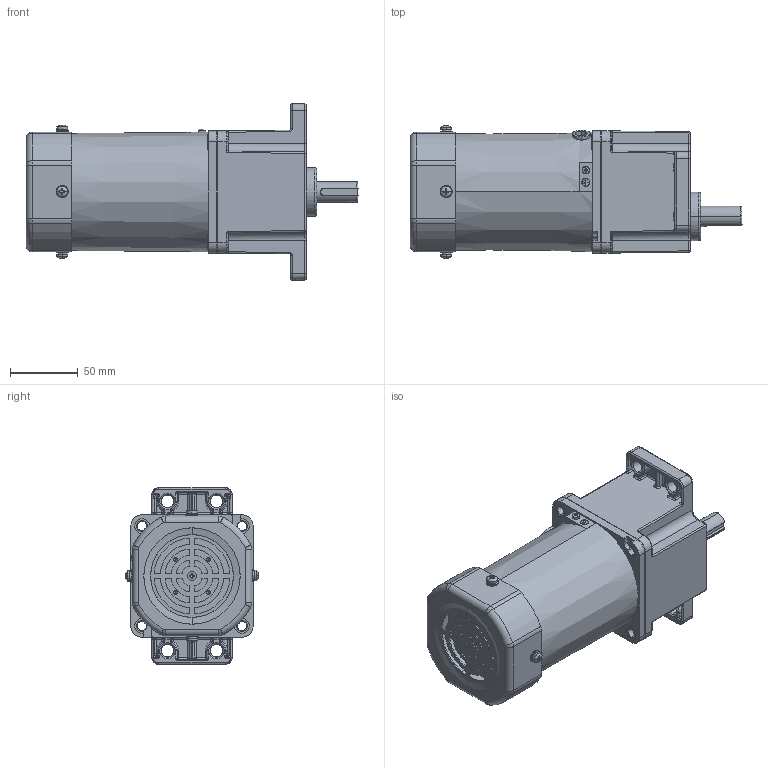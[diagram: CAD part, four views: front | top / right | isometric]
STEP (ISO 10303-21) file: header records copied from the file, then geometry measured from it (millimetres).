
FILE_DESCRIPTION (( 'STEP AP203' ), '1' );
FILE_NAME ('5IK120GU-CF(5GU3K-200K).STEP', '2023-08-09T02:34:12', ( 'Windows User' ), ( 'P R C' ), 'SwSTEP 2.0', 'SolidWorks 2019', '' );
FILE_SCHEMA (( 'CONFIG_CONTROL_DESIGN' ));
Length unit declared in the file: millimetre
Products named in the file (9): 5GU3K-200K^5IK120GU-CF(5GU3K-200K)(2)_5IK120GU-CF(5GU3K-200K); 5IK120GU-CF(5GU3K-200K); 5IK120GU-CF(5GU3K-200K)(2)^5IK120GU-CF(5GU3K-200K); 90JK^5IK90A-CF_5IK120GU-CF(5GU3K-200K)(2)_5IK120GU-CF(5GU3K-200K); 5IK90A-CF^5IK120GU-CF(5GU3K-200K)(2)_5IK120GU-CF(5GU3K-200K); M3^5IK90A-CF_5IK120GU-CF(5GU3K-200K)(2)_5IK120GU-CF(5GU3K-200K); 90FZ^5IK90A-CF_5IK120GU-CF(5GU3K-200K)(2)_5IK120GU-CF(5GU3K-200K); ^_5GU3K-200K_5IK120GU-CF(5GU3K-200K)(2)_5IK120GU-CF(5GU3K-200K); ^5GU3K-200K_5IK120GU-CF(5GU3K-200K)(2)_5IK120GU-CF(5GU3K-200K)
Assembly tree (8 placements, depth 5):
  5IK120GU-CF(5GU3K-200K)
    5IK120GU-CF(5GU3K-200K)(2)^5IK120GU-CF(5GU3K-200K)
      5IK90A-CF^5IK120GU-CF(5GU3K-200K)(2)_5IK120GU-CF(5GU3K-200K)
        90JK^5IK90A-CF_5IK120GU-CF(5GU3K-200K)(2)_5IK120GU-CF(5GU3K-200K)
        M3^5IK90A-CF_5IK120GU-CF(5GU3K-200K)(2)_5IK120GU-CF(5GU3K-200K)
        90FZ^5IK90A-CF_5IK120GU-CF(5GU3K-200K)(2)_5IK120GU-CF(5GU3K-200K)
      5GU3K-200K^5IK120GU-CF(5GU3K-200K)(2)_5IK120GU-CF(5GU3K-200K)
        ^5GU3K-200K_5IK120GU-CF(5GU3K-200K)(2)_5IK120GU-CF(5GU3K-200K)
          ^_5GU3K-200K_5IK120GU-CF(5GU3K-200K)(2)_5IK120GU-CF(5GU3K-200K)
Bounding box: 244.5 x 98.11 x 129.97 mm (x, y, z)
Volume: 1247386.1 mm3; surface area: 136039.1 mm2
Topology: 17 solids, 17 shells, 1139 faces, 2827 edges, 1695 vertices
Faces by surface type: cylinder 462, plane 284, cone 159, bspline 115, torus 67, sphere 52
Entity records: 42312 total; most frequent: CARTESIAN_POINT 14923, DIRECTION 5668, ORIENTED_EDGE 5516, EDGE_CURVE 2758, AXIS2_PLACEMENT_3D 2281, VERTEX_POINT 1694, EDGE_LOOP 1246, CIRCLE 1242
